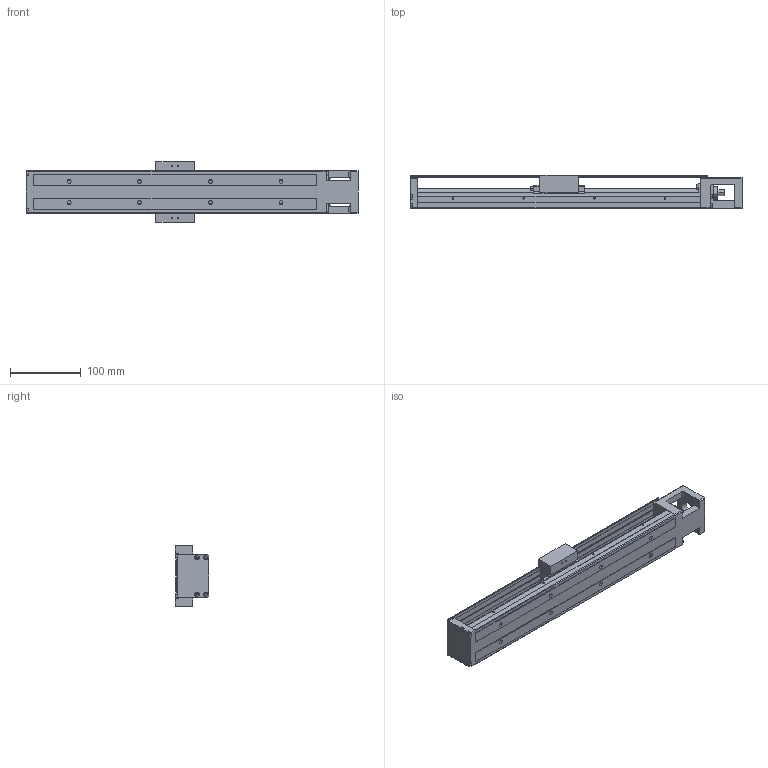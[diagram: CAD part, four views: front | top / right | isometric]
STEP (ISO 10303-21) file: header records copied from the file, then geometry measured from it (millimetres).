
FILE_DESCRIPTION (( 'STEP AP203' ), '1' );
FILE_NAME ('HKK60D10C-400A1-F0C.stp', '2021-11-25T07:14:06', ( '' ), ( '' ), 'SwSTEP 2.0', 'SolidWorks 2018', '' );
FILE_SCHEMA (( 'CONFIG_CONTROL_DESIGN' ));
Length unit declared in the file: millimetre
Products named in the file (1): HKK60D10C-400A1-F0C
Bounding box: 470 x 48 x 86 mm (x, y, z)
Volume: 604731.2 mm3; surface area: 208543.5 mm2
Topology: 2 solids, 10 shells, 829 faces, 2227 edges, 1425 vertices
Faces by surface type: plane 523, cylinder 238, cone 58, torus 8, bspline 2
Entity records: 26119 total; most frequent: CARTESIAN_POINT 5279, ORIENTED_EDGE 4338, DIRECTION 4253, EDGE_CURVE 2169, VECTOR 1541, LINE 1541, VERTEX_POINT 1425, AXIS2_PLACEMENT_3D 1356
